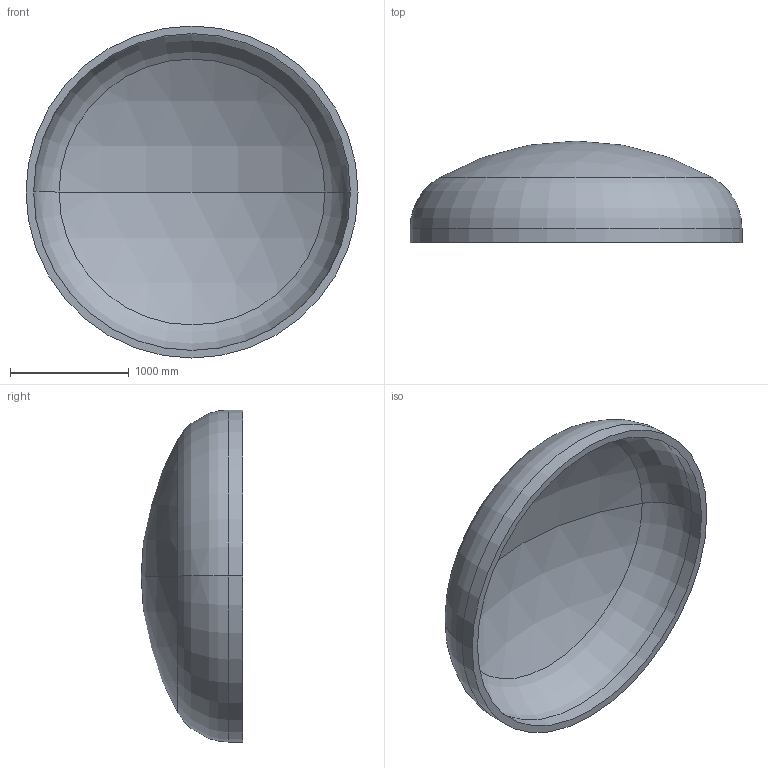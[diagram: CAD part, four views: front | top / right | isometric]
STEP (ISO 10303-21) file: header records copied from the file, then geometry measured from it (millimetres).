
FILE_DESCRIPTION (( 'STEP AP203' ), '1' );
FILE_NAME ('DIN 28013 Korbbogenform_-_Boden DIN 28013 - 2800 x 120 - I - s=64.step', '2016-07-01T17:07:38', ( '' ), ( '' ), 'SwSTEP 2.0', 'SolidWorks 2013', '' );
FILE_SCHEMA (( 'CONFIG_CONTROL_DESIGN' ));
Length unit declared in the file: millimetre
Products named in the file (1): DIN 28013 Korbbogenform_-_Boden DIN 28013 - 2800 x 120 - I - s=64
Bounding box: 2800 x 857.07 x 2800 mm (x, y, z)
Volume: 595369905.6 mm3; surface area: 19163987.5 mm2
Topology: 1 solids, 1 shells, 13 faces, 24 edges, 14 vertices
Faces by surface type: torus 4, cylinder 4, sphere 4, plane 1
Entity records: 407 total; most frequent: DIRECTION 72, CARTESIAN_POINT 52, ORIENTED_EDGE 48, AXIS2_PLACEMENT_3D 34, EDGE_CURVE 24, CIRCLE 20, EDGE_LOOP 14, VERTEX_POINT 14
